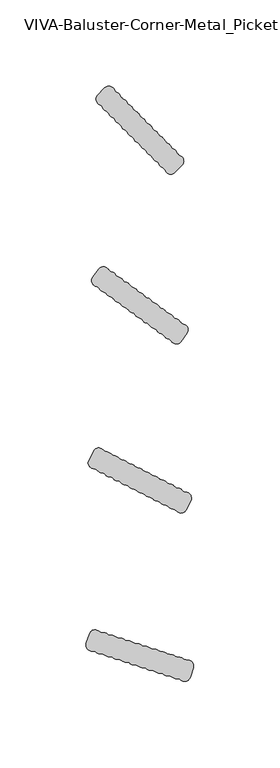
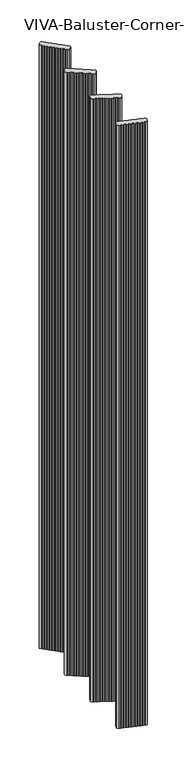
"""IFC4 building model written with IfcOpenShell, lengths in millimetres: railing geometry, VIVA-Baluster-Corner-Metal_Picket : OR4."""

from ifc_helpers import new_model, si_unit, point, frame, frame_2d, origin, place, context, project, spatial, polyline, circle_curve, trimmed, segment, composite_curve, outline, extrude, source, transform, mapped, element, save


def viva_baluster_corner_metal_picket_or4_ef358f53(model_context):
    return source(origin(), model_context, "Body", "SweptSolid", [
        extrude(outline(composite_curve([segment(trimmed(circle_curve(frame_2d((50.9185441, 59.6233121)), 3.4374084), [point((54.1877137, 58.5610945))], [point((48.7096318, 56.9895916))], False, "CARTESIAN"), True, "CONTINUOUS"), segment(trimmed(circle_curve(frame_2d((46.5007196, 54.3558711)), 3.4374084), [point((48.7096318, 56.9895916))], [point((46.2617341, 57.7849618))], True, "CARTESIAN"), True, "CONTINUOUS"), segment(trimmed(circle_curve(frame_2d((46.0227487, 61.2140524)), 3.4374084), [point((46.2617341, 57.7849618))], [point((43.8138364, 58.580332))], False, "CARTESIAN"), True, "CONTINUOUS"), segment(trimmed(circle_curve(frame_2d((41.6049242, 55.9466115)), 3.4374084), [point((43.8138364, 58.580332))], [point((41.3659387, 59.3757022))], True, "CARTESIAN"), True, "CONTINUOUS"), segment(trimmed(circle_curve(frame_2d((41.1269533, 62.8047928)), 3.4374084), [point((41.3659387, 59.3757022))], [point((38.918041, 60.1710723))], False, "CARTESIAN"), True, "CONTINUOUS"), segment(trimmed(circle_curve(frame_2d((36.7091288, 57.5373519)), 3.4374084), [point((38.918041, 60.1710723))], [point((36.4701433, 60.9664425))], True, "CARTESIAN"), True, "CONTINUOUS"), segment(trimmed(circle_curve(frame_2d((36.2311579, 64.3955332)), 3.4374084), [point((36.4701433, 60.9664425))], [point((34.0222456, 61.7618127))], False, "CARTESIAN"), True, "CONTINUOUS"), segment(trimmed(circle_curve(frame_2d((31.8133334, 59.1280922)), 3.4374084), [point((34.0222456, 61.7618127))], [point((31.5743479, 62.5571829))], True, "CARTESIAN"), True, "CONTINUOUS"), segment(trimmed(circle_curve(frame_2d((31.3353625, 65.9862735)), 3.4374084), [point((31.5743479, 62.5571829))], [point((29.1264502, 63.352553))], False, "CARTESIAN"), True, "CONTINUOUS"), segment(trimmed(circle_curve(frame_2d((26.917538, 60.7188326)), 3.4374084), [point((29.1264502, 63.352553))], [point((26.6785525, 64.1479232))], True, "CARTESIAN"), True, "CONTINUOUS"), segment(trimmed(circle_curve(frame_2d((26.4395671, 67.5770139)), 3.4374084), [point((26.6785525, 64.1479232))], [point((24.2306548, 64.9432934))], False, "CARTESIAN"), True, "CONTINUOUS"), segment(trimmed(circle_curve(frame_2d((22.0217426, 62.3095729)), 3.4374084), [point((24.2306548, 64.9432934))], [point((21.7827571, 65.7386636))], True, "CARTESIAN"), True, "CONTINUOUS"), segment(trimmed(circle_curve(frame_2d((21.5437717, 69.1677542)), 3.4374084), [point((21.7827571, 65.7386636))], [point((19.3348594, 66.5340337))], False, "CARTESIAN"), True, "CONTINUOUS"), segment(trimmed(circle_curve(frame_2d((17.1259472, 63.9003133)), 3.4374084), [point((19.3348594, 66.5340337))], [point((16.8869617, 67.3294039))], True, "CARTESIAN"), True, "CONTINUOUS"), segment(trimmed(circle_curve(frame_2d((16.6479763, 70.7584946)), 3.4374084), [point((16.8869617, 67.3294039))], [point((14.439064, 68.1247741))], False, "CARTESIAN"), True, "CONTINUOUS"), segment(trimmed(circle_curve(frame_2d((12.2301518, 65.4910536)), 3.4374084), [point((14.439064, 68.1247741))], [point((11.9911663, 68.9201443))], True, "CARTESIAN"), True, "CONTINUOUS"), segment(trimmed(circle_curve(frame_2d((11.7521809, 72.3492349)), 3.4374084), [point((11.9911663, 68.9201443))], [point((9.5432686, 69.7155145))], False, "CARTESIAN"), True, "CONTINUOUS"), segment(trimmed(circle_curve(frame_2d((7.3343564, 67.081794)), 3.4374084), [point((9.5432686, 69.7155145))], [point((7.0953709, 70.5108846))], True, "CARTESIAN"), True, "CONTINUOUS"), segment(trimmed(circle_curve(frame_2d((6.8563855, 73.9399753)), 3.4374084), [point((7.0953709, 70.5108846))], [point((4.6474732, 71.3062548))], False, "CARTESIAN"), True, "CONTINUOUS"), segment(trimmed(circle_curve(frame_2d((2.438561, 68.6725343)), 3.4374084), [point((4.6474732, 71.3062548))], [point((2.1995755, 72.101625))], True, "CARTESIAN"), True, "CONTINUOUS"), segment(trimmed(circle_curve(frame_2d((1.9605901, 75.5307156)), 3.4374084), [point((2.1995755, 72.101625))], [point((-0.2483222, 72.8969952))], False, "CARTESIAN"), True, "CONTINUOUS"), segment(trimmed(circle_curve(frame_2d((-2.4572344, 70.2632747)), 3.4374084), [point((-0.2483222, 72.8969952))], [point((-2.6962199, 73.6923653))], True, "CARTESIAN"), True, "CONTINUOUS"), segment(trimmed(circle_curve(frame_2d((-2.9352053, 77.121456)), 3.4374084), [point((-2.6962199, 73.6923653))], [point((-6.204375, 78.1836736))], False, "CARTESIAN"), True, "CONTINUOUS"), segment(polyline([(-6.204375, 78.1836736), (-4.4042945, 83.723752)]), True, "CONTINUOUS"), segment(trimmed(circle_curve(frame_2d((-1.1351248, 82.6615344)), 3.4374084), [point((-4.4042945, 83.723752))], [point((1.0737875, 85.2952548))], False, "CARTESIAN"), True, "CONTINUOUS"), segment(trimmed(circle_curve(frame_2d((3.2826997, 87.9289753)), 3.4374084), [point((1.0737875, 85.2952548))], [point((3.5216852, 84.4998847))], True, "CARTESIAN"), True, "CONTINUOUS"), segment(trimmed(circle_curve(frame_2d((3.7606706, 81.070794)), 3.4374084), [point((3.5216852, 84.4998847))], [point((5.9695829, 83.7045145))], False, "CARTESIAN"), True, "CONTINUOUS"), segment(trimmed(circle_curve(frame_2d((8.1784951, 86.338235)), 3.4374084), [point((5.9695829, 83.7045145))], [point((8.4174806, 82.9091443))], True, "CARTESIAN"), True, "CONTINUOUS"), segment(trimmed(circle_curve(frame_2d((8.656466, 79.4800537)), 3.4374084), [point((8.4174806, 82.9091443))], [point((10.8653783, 82.1137741))], False, "CARTESIAN"), True, "CONTINUOUS"), segment(trimmed(circle_curve(frame_2d((13.0742905, 84.7474946)), 3.4374084), [point((10.8653783, 82.1137741))], [point((13.313276, 81.318404))], True, "CARTESIAN"), True, "CONTINUOUS"), segment(trimmed(circle_curve(frame_2d((13.5522614, 77.8893133)), 3.4374084), [point((13.313276, 81.318404))], [point((15.7611737, 80.5230338))], False, "CARTESIAN"), True, "CONTINUOUS"), segment(trimmed(circle_curve(frame_2d((17.9700859, 83.1567542)), 3.4374084), [point((15.7611737, 80.5230338))], [point((18.2090714, 79.7276636))], True, "CARTESIAN"), True, "CONTINUOUS"), segment(trimmed(circle_curve(frame_2d((18.4480568, 76.2985729)), 3.4374084), [point((18.2090714, 79.7276636))], [point((20.6569691, 78.9322934))], False, "CARTESIAN"), True, "CONTINUOUS"), segment(trimmed(circle_curve(frame_2d((22.8658813, 81.5660139)), 3.4374084), [point((20.6569691, 78.9322934))], [point((23.1048668, 78.1369232))], True, "CARTESIAN"), True, "CONTINUOUS"), segment(trimmed(circle_curve(frame_2d((23.3438522, 74.7078326)), 3.4374084), [point((23.1048668, 78.1369232))], [point((25.5527645, 77.3415531))], False, "CARTESIAN"), True, "CONTINUOUS"), segment(trimmed(circle_curve(frame_2d((27.7616767, 79.9752735)), 3.4374084), [point((25.5527645, 77.3415531))], [point((28.0006622, 76.5461829))], True, "CARTESIAN"), True, "CONTINUOUS"), segment(trimmed(circle_curve(frame_2d((28.2396476, 73.1170922)), 3.4374084), [point((28.0006622, 76.5461829))], [point((30.4485599, 75.7508127))], False, "CARTESIAN"), True, "CONTINUOUS"), segment(trimmed(circle_curve(frame_2d((32.6574721, 78.3845332)), 3.4374084), [point((30.4485599, 75.7508127))], [point((32.8964576, 74.9554425))], True, "CARTESIAN"), True, "CONTINUOUS"), segment(trimmed(circle_curve(frame_2d((33.135443, 71.5263519)), 3.4374084), [point((32.8964576, 74.9554425))], [point((35.3443553, 74.1600724))], False, "CARTESIAN"), True, "CONTINUOUS"), segment(trimmed(circle_curve(frame_2d((37.5532675, 76.7937928)), 3.4374084), [point((35.3443553, 74.1600724))], [point((37.792253, 73.3647022))], True, "CARTESIAN"), True, "CONTINUOUS"), segment(trimmed(circle_curve(frame_2d((38.0312384, 69.9356115)), 3.4374084), [point((37.792253, 73.3647022))], [point((40.2401507, 72.569332))], False, "CARTESIAN"), True, "CONTINUOUS"), segment(trimmed(circle_curve(frame_2d((42.4490629, 75.2030525)), 3.4374084), [point((40.2401507, 72.569332))], [point((42.6880484, 71.7739618))], True, "CARTESIAN"), True, "CONTINUOUS"), segment(trimmed(circle_curve(frame_2d((42.9270338, 68.3448712)), 3.4374084), [point((42.6880484, 71.7739618))], [point((45.1359461, 70.9785917))], False, "CARTESIAN"), True, "CONTINUOUS"), segment(trimmed(circle_curve(frame_2d((47.3448583, 73.6123121)), 3.4374084), [point((45.1359461, 70.9785917))], [point((47.5838438, 70.1832215))], True, "CARTESIAN"), True, "CONTINUOUS"), segment(trimmed(circle_curve(frame_2d((47.8228292, 66.7541308)), 3.4374084), [point((47.5838438, 70.1832215))], [point((50.0317415, 69.3878513))], False, "CARTESIAN"), True, "CONTINUOUS"), segment(trimmed(circle_curve(frame_2d((52.2406537, 72.0215718)), 3.4374084), [point((50.0317415, 69.3878513))], [point((52.4796392, 68.5924811))], True, "CARTESIAN"), True, "CONTINUOUS"), segment(trimmed(circle_curve(frame_2d((52.7186246, 65.1633905)), 3.4374084), [point((52.4796392, 68.5924811))], [point((55.9877943, 64.1011728))], False, "CARTESIAN"), True, "CONTINUOUS"), segment(polyline([(55.9877943, 64.1011728), (54.1877137, 58.5610945)]), True, "CONTINUOUS")], self_intersect=False)), frame((0.0, 0.0, -245.8945017), z_axis=(0.0, 0.0, 1.0), x_axis=(1.0, 0.0, 0.0)), (0.0, 0.0, 1.0), 1465.0945017),
        extrude(outline(composite_curve([segment(trimmed(circle_curve(frame_2d((48.7961246, 157.2936376)), 3.4374084), [point((51.8588779, 155.7330868))], [point((46.2024031, 155.0378925))], False, "CARTESIAN"), True, "CONTINUOUS"), segment(trimmed(circle_curve(frame_2d((43.6086816, 152.7821475)), 3.4374084), [point((46.2024031, 155.0378925))], [point((43.9090663, 156.206406))], True, "CARTESIAN"), True, "CONTINUOUS"), segment(trimmed(circle_curve(frame_2d((44.2094511, 159.6306644)), 3.4374084), [point((43.9090663, 156.206406))], [point((41.6157296, 157.3749194))], False, "CARTESIAN"), True, "CONTINUOUS"), segment(trimmed(circle_curve(frame_2d((39.0220081, 155.1191744)), 3.4374084), [point((41.6157296, 157.3749194))], [point((39.3223929, 158.5434328))], True, "CARTESIAN"), True, "CONTINUOUS"), segment(trimmed(circle_curve(frame_2d((39.6227777, 161.9676912)), 3.4374084), [point((39.3223929, 158.5434328))], [point((37.0290562, 159.7119462))], False, "CARTESIAN"), True, "CONTINUOUS"), segment(trimmed(circle_curve(frame_2d((34.4353347, 157.4562012)), 3.4374084), [point((37.0290562, 159.7119462))], [point((34.7357195, 160.8804596))], True, "CARTESIAN"), True, "CONTINUOUS"), segment(trimmed(circle_curve(frame_2d((35.0361043, 164.3047181)), 3.4374084), [point((34.7357195, 160.8804596))], [point((32.4423828, 162.0489731))], False, "CARTESIAN"), True, "CONTINUOUS"), segment(trimmed(circle_curve(frame_2d((29.8486613, 159.7932281)), 3.4374084), [point((32.4423828, 162.0489731))], [point((30.1490461, 163.2174865))], True, "CARTESIAN"), True, "CONTINUOUS"), segment(trimmed(circle_curve(frame_2d((30.4494309, 166.6417449)), 3.4374084), [point((30.1490461, 163.2174865))], [point((27.8557094, 164.3859999))], False, "CARTESIAN"), True, "CONTINUOUS"), segment(trimmed(circle_curve(frame_2d((25.2619879, 162.1302549)), 3.4374084), [point((27.8557094, 164.3859999))], [point((25.5623727, 165.5545133))], True, "CARTESIAN"), True, "CONTINUOUS"), segment(trimmed(circle_curve(frame_2d((25.8627575, 168.9787717)), 3.4374084), [point((25.5623727, 165.5545133))], [point((23.269036, 166.7230267))], False, "CARTESIAN"), True, "CONTINUOUS"), segment(trimmed(circle_curve(frame_2d((20.6753145, 164.4672817)), 3.4374084), [point((23.269036, 166.7230267))], [point((20.9756993, 167.8915401))], True, "CARTESIAN"), True, "CONTINUOUS"), segment(trimmed(circle_curve(frame_2d((21.276084, 171.3157986)), 3.4374084), [point((20.9756993, 167.8915401))], [point((18.6823625, 169.0600536))], False, "CARTESIAN"), True, "CONTINUOUS"), segment(trimmed(circle_curve(frame_2d((16.088641, 166.8043086)), 3.4374084), [point((18.6823625, 169.0600536))], [point((16.3890258, 170.228567))], True, "CARTESIAN"), True, "CONTINUOUS"), segment(trimmed(circle_curve(frame_2d((16.6894106, 173.6528254)), 3.4374084), [point((16.3890258, 170.228567))], [point((14.0956891, 171.3970804))], False, "CARTESIAN"), True, "CONTINUOUS"), segment(trimmed(circle_curve(frame_2d((11.5019676, 169.1413354)), 3.4374084), [point((14.0956891, 171.3970804))], [point((11.8023524, 172.5655938))], True, "CARTESIAN"), True, "CONTINUOUS"), segment(trimmed(circle_curve(frame_2d((12.1027372, 175.9898522)), 3.4374084), [point((11.8023524, 172.5655938))], [point((9.5090157, 173.7341072))], False, "CARTESIAN"), True, "CONTINUOUS"), segment(trimmed(circle_curve(frame_2d((6.9152942, 171.4783622)), 3.4374084), [point((9.5090157, 173.7341072))], [point((7.215679, 174.9026206))], True, "CARTESIAN"), True, "CONTINUOUS"), segment(trimmed(circle_curve(frame_2d((7.5160638, 178.3268791)), 3.4374084), [point((7.215679, 174.9026206))], [point((4.9223423, 176.0711341))], False, "CARTESIAN"), True, "CONTINUOUS"), segment(trimmed(circle_curve(frame_2d((2.3286208, 173.8153891)), 3.4374084), [point((4.9223423, 176.0711341))], [point((2.6290056, 177.2396475))], True, "CARTESIAN"), True, "CONTINUOUS"), segment(trimmed(circle_curve(frame_2d((2.9293904, 180.6639059)), 3.4374084), [point((2.6290056, 177.2396475))], [point((0.3356689, 178.4081609))], False, "CARTESIAN"), True, "CONTINUOUS"), segment(trimmed(circle_curve(frame_2d((-2.2580526, 176.1524159)), 3.4374084), [point((0.3356689, 178.4081609))], [point((-1.9576678, 179.5766743))], True, "CARTESIAN"), True, "CONTINUOUS"), segment(trimmed(circle_curve(frame_2d((-1.657283, 183.0009327)), 3.4374084), [point((-1.9576678, 179.5766743))], [point((-4.7200364, 184.5614835))], False, "CARTESIAN"), True, "CONTINUOUS"), segment(polyline([(-4.7200364, 184.5614835), (-2.0754586, 189.7517597)]), True, "CONTINUOUS"), segment(trimmed(circle_curve(frame_2d((0.9872948, 188.1912089)), 3.4374084), [point((-2.0754586, 189.7517597))], [point((3.5810163, 190.4469539))], False, "CARTESIAN"), True, "CONTINUOUS"), segment(trimmed(circle_curve(frame_2d((6.1747378, 192.7026989)), 3.4374084), [point((3.5810163, 190.4469539))], [point((5.874353, 189.2784405))], True, "CARTESIAN"), True, "CONTINUOUS"), segment(trimmed(circle_curve(frame_2d((5.5739682, 185.8541821)), 3.4374084), [point((5.874353, 189.2784405))], [point((8.1676897, 188.1099271))], False, "CARTESIAN"), True, "CONTINUOUS"), segment(trimmed(circle_curve(frame_2d((10.7614112, 190.3656721)), 3.4374084), [point((8.1676897, 188.1099271))], [point((10.4610264, 186.9414137))], True, "CARTESIAN"), True, "CONTINUOUS"), segment(trimmed(circle_curve(frame_2d((10.1606416, 183.5171552)), 3.4374084), [point((10.4610264, 186.9414137))], [point((12.7543631, 185.7729002))], False, "CARTESIAN"), True, "CONTINUOUS"), segment(trimmed(circle_curve(frame_2d((15.3480846, 188.0286452)), 3.4374084), [point((12.7543631, 185.7729002))], [point((15.0476998, 184.6043868))], True, "CARTESIAN"), True, "CONTINUOUS"), segment(trimmed(circle_curve(frame_2d((14.747315, 181.1801284)), 3.4374084), [point((15.0476998, 184.6043868))], [point((17.3410365, 183.4358734))], False, "CARTESIAN"), True, "CONTINUOUS"), segment(trimmed(circle_curve(frame_2d((19.934758, 185.6916184)), 3.4374084), [point((17.3410365, 183.4358734))], [point((19.6343732, 182.26736))], True, "CARTESIAN"), True, "CONTINUOUS"), segment(trimmed(circle_curve(frame_2d((19.3339884, 178.8431016)), 3.4374084), [point((19.6343732, 182.26736))], [point((21.9277099, 181.0988466))], False, "CARTESIAN"), True, "CONTINUOUS"), segment(trimmed(circle_curve(frame_2d((24.5214314, 183.3545916)), 3.4374084), [point((21.9277099, 181.0988466))], [point((24.2210466, 179.9303332))], True, "CARTESIAN"), True, "CONTINUOUS"), segment(trimmed(circle_curve(frame_2d((23.9206618, 176.5060747)), 3.4374084), [point((24.2210466, 179.9303332))], [point((26.5143833, 178.7618197))], False, "CARTESIAN"), True, "CONTINUOUS"), segment(trimmed(circle_curve(frame_2d((29.1081049, 181.0175647)), 3.4374084), [point((26.5143833, 178.7618197))], [point((28.8077201, 177.5933063))], True, "CARTESIAN"), True, "CONTINUOUS"), segment(trimmed(circle_curve(frame_2d((28.5073353, 174.1690479)), 3.4374084), [point((28.8077201, 177.5933063))], [point((31.1010568, 176.4247929))], False, "CARTESIAN"), True, "CONTINUOUS"), segment(trimmed(circle_curve(frame_2d((33.6947783, 178.6805379)), 3.4374084), [point((31.1010568, 176.4247929))], [point((33.3943935, 175.2562795))], True, "CARTESIAN"), True, "CONTINUOUS"), segment(trimmed(circle_curve(frame_2d((33.0940087, 171.8320211)), 3.4374084), [point((33.3943935, 175.2562795))], [point((35.6877302, 174.0877661))], False, "CARTESIAN"), True, "CONTINUOUS"), segment(trimmed(circle_curve(frame_2d((38.2814517, 176.3435111)), 3.4374084), [point((35.6877302, 174.0877661))], [point((37.9810669, 172.9192527))], True, "CARTESIAN"), True, "CONTINUOUS"), segment(trimmed(circle_curve(frame_2d((37.6806821, 169.4949942)), 3.4374084), [point((37.9810669, 172.9192527))], [point((40.2744036, 171.7507392))], False, "CARTESIAN"), True, "CONTINUOUS"), segment(trimmed(circle_curve(frame_2d((42.8681251, 174.0064842)), 3.4374084), [point((40.2744036, 171.7507392))], [point((42.5677403, 170.5822258))], True, "CARTESIAN"), True, "CONTINUOUS"), segment(trimmed(circle_curve(frame_2d((42.2673555, 167.1579674)), 3.4374084), [point((42.5677403, 170.5822258))], [point((44.861077, 169.4137124))], False, "CARTESIAN"), True, "CONTINUOUS"), segment(trimmed(circle_curve(frame_2d((47.4547985, 171.6694574)), 3.4374084), [point((44.861077, 169.4137124))], [point((47.1544137, 168.245199))], True, "CARTESIAN"), True, "CONTINUOUS"), segment(trimmed(circle_curve(frame_2d((46.8540289, 164.8209406)), 3.4374084), [point((47.1544137, 168.245199))], [point((49.4477504, 167.0766856))], False, "CARTESIAN"), True, "CONTINUOUS"), segment(trimmed(circle_curve(frame_2d((52.0414719, 169.3324306)), 3.4374084), [point((49.4477504, 167.0766856))], [point((51.7410872, 165.9081721))], True, "CARTESIAN"), True, "CONTINUOUS"), segment(trimmed(circle_curve(frame_2d((51.4407024, 162.4839137)), 3.4374084), [point((51.7410872, 165.9081721))], [point((54.5034557, 160.923363))], False, "CARTESIAN"), True, "CONTINUOUS"), segment(polyline([(54.5034557, 160.923363), (51.8588779, 155.7330868)]), True, "CONTINUOUS")], self_intersect=False)), frame((0.0, 0.0, -245.8945017), z_axis=(0.0, 0.0, 1.0), x_axis=(1.0, 0.0, 0.0)), (0.0, 0.0, 1.0), 1465.0945017),
        extrude(outline(composite_curve([segment(trimmed(circle_curve(frame_2d((46.085099, 255.3443634)), 3.4374084), [point((48.8660209, 253.3239054))], [point((43.1704343, 253.5221378))], False, "CARTESIAN"), True, "CONTINUOUS"), segment(trimmed(circle_curve(frame_2d((40.2557695, 251.6999122)), 3.4374084), [point((43.1704343, 253.5221378))], [point((41.0881281, 255.0350218))], True, "CARTESIAN"), True, "CONTINUOUS"), segment(trimmed(circle_curve(frame_2d((41.9204867, 258.3701313)), 3.4374084), [point((41.0881281, 255.0350218))], [point((39.005822, 256.5479057))], False, "CARTESIAN"), True, "CONTINUOUS"), segment(trimmed(circle_curve(frame_2d((36.0911572, 254.7256801)), 3.4374084), [point((39.005822, 256.5479057))], [point((36.9235158, 258.0607897))], True, "CARTESIAN"), True, "CONTINUOUS"), segment(trimmed(circle_curve(frame_2d((37.7558744, 261.3958993)), 3.4374084), [point((36.9235158, 258.0607897))], [point((34.8412096, 259.5736737))], False, "CARTESIAN"), True, "CONTINUOUS"), segment(trimmed(circle_curve(frame_2d((31.9265449, 257.7514481)), 3.4374084), [point((34.8412096, 259.5736737))], [point((32.7589035, 261.0865577))], True, "CARTESIAN"), True, "CONTINUOUS"), segment(trimmed(circle_curve(frame_2d((33.5912621, 264.4216673)), 3.4374084), [point((32.7589035, 261.0865577))], [point((30.6765973, 262.5994417))], False, "CARTESIAN"), True, "CONTINUOUS"), segment(trimmed(circle_curve(frame_2d((27.7619326, 260.7772161)), 3.4374084), [point((30.6765973, 262.5994417))], [point((28.5942912, 264.1123256))], True, "CARTESIAN"), True, "CONTINUOUS"), segment(trimmed(circle_curve(frame_2d((29.4266498, 267.4474352)), 3.4374084), [point((28.5942912, 264.1123256))], [point((26.511985, 265.6252096))], False, "CARTESIAN"), True, "CONTINUOUS"), segment(trimmed(circle_curve(frame_2d((23.5973203, 263.802984)), 3.4374084), [point((26.511985, 265.6252096))], [point((24.4296789, 267.1380936))], True, "CARTESIAN"), True, "CONTINUOUS"), segment(trimmed(circle_curve(frame_2d((25.2620375, 270.4732032)), 3.4374084), [point((24.4296789, 267.1380936))], [point((22.3473727, 268.6509776))], False, "CARTESIAN"), True, "CONTINUOUS"), segment(trimmed(circle_curve(frame_2d((19.432708, 266.828752)), 3.4374084), [point((22.3473727, 268.6509776))], [point((20.2650665, 270.1638616))], True, "CARTESIAN"), True, "CONTINUOUS"), segment(trimmed(circle_curve(frame_2d((21.0974251, 273.4989711)), 3.4374084), [point((20.2650665, 270.1638616))], [point((18.1827604, 271.6767455))], False, "CARTESIAN"), True, "CONTINUOUS"), segment(trimmed(circle_curve(frame_2d((15.2680956, 269.8545199)), 3.4374084), [point((18.1827604, 271.6767455))], [point((16.1004542, 273.1896295))], True, "CARTESIAN"), True, "CONTINUOUS"), segment(trimmed(circle_curve(frame_2d((16.9328128, 276.5247391)), 3.4374084), [point((16.1004542, 273.1896295))], [point((14.0181481, 274.7025135))], False, "CARTESIAN"), True, "CONTINUOUS"), segment(trimmed(circle_curve(frame_2d((11.1034833, 272.8802879)), 3.4374084), [point((14.0181481, 274.7025135))], [point((11.9358419, 276.2153975))], True, "CARTESIAN"), True, "CONTINUOUS"), segment(trimmed(circle_curve(frame_2d((12.7682005, 279.5505071)), 3.4374084), [point((11.9358419, 276.2153975))], [point((9.8535358, 277.7282815))], False, "CARTESIAN"), True, "CONTINUOUS"), segment(trimmed(circle_curve(frame_2d((6.938871, 275.9060559)), 3.4374084), [point((9.8535358, 277.7282815))], [point((7.7712296, 279.2411654))], True, "CARTESIAN"), True, "CONTINUOUS"), segment(trimmed(circle_curve(frame_2d((8.6035882, 282.576275)), 3.4374084), [point((7.7712296, 279.2411654))], [point((5.6889234, 280.7540494))], False, "CARTESIAN"), True, "CONTINUOUS"), segment(trimmed(circle_curve(frame_2d((2.7742587, 278.9318238)), 3.4374084), [point((5.6889234, 280.7540494))], [point((3.6066173, 282.2669334))], True, "CARTESIAN"), True, "CONTINUOUS"), segment(trimmed(circle_curve(frame_2d((4.4389759, 285.602043)), 3.4374084), [point((3.6066173, 282.2669334))], [point((1.5243111, 283.7798174))], False, "CARTESIAN"), True, "CONTINUOUS"), segment(trimmed(circle_curve(frame_2d((-1.3903536, 281.9575918)), 3.4374084), [point((1.5243111, 283.7798174))], [point((-0.557995, 285.2927014))], True, "CARTESIAN"), True, "CONTINUOUS"), segment(trimmed(circle_curve(frame_2d((0.2743636, 288.6278109)), 3.4374084), [point((-0.557995, 285.2927014))], [point((-2.5065583, 290.6482689))], False, "CARTESIAN"), True, "CONTINUOUS"), segment(polyline([(-2.5065583, 290.6482689), (0.9173985, 295.3609411)]), True, "CONTINUOUS"), segment(trimmed(circle_curve(frame_2d((3.6983203, 293.3404831)), 3.4374084), [point((0.9173985, 295.3609411))], [point((6.612985, 295.1627087))], False, "CARTESIAN"), True, "CONTINUOUS"), segment(trimmed(circle_curve(frame_2d((9.5276498, 296.9849343)), 3.4374084), [point((6.612985, 295.1627087))], [point((8.6952912, 293.6498247))], True, "CARTESIAN"), True, "CONTINUOUS"), segment(trimmed(circle_curve(frame_2d((7.8629326, 290.3147151)), 3.4374084), [point((8.6952912, 293.6498247))], [point((10.7775974, 292.1369407))], False, "CARTESIAN"), True, "CONTINUOUS"), segment(trimmed(circle_curve(frame_2d((13.6922621, 293.9591663)), 3.4374084), [point((10.7775974, 292.1369407))], [point((12.8599035, 290.6240567))], True, "CARTESIAN"), True, "CONTINUOUS"), segment(trimmed(circle_curve(frame_2d((12.0275449, 287.2889472)), 3.4374084), [point((12.8599035, 290.6240567))], [point((14.9422097, 289.1111728))], False, "CARTESIAN"), True, "CONTINUOUS"), segment(trimmed(circle_curve(frame_2d((17.8568744, 290.9333984)), 3.4374084), [point((14.9422097, 289.1111728))], [point((17.0245158, 287.5982888))], True, "CARTESIAN"), True, "CONTINUOUS"), segment(trimmed(circle_curve(frame_2d((16.1921572, 284.2631792)), 3.4374084), [point((17.0245158, 287.5982888))], [point((19.106822, 286.0854048))], False, "CARTESIAN"), True, "CONTINUOUS"), segment(trimmed(circle_curve(frame_2d((22.0214867, 287.9076304)), 3.4374084), [point((19.106822, 286.0854048))], [point((21.1891282, 284.5725208))], True, "CARTESIAN"), True, "CONTINUOUS"), segment(trimmed(circle_curve(frame_2d((20.3567696, 281.2374112)), 3.4374084), [point((21.1891282, 284.5725208))], [point((23.2714343, 283.0596368))], False, "CARTESIAN"), True, "CONTINUOUS"), segment(trimmed(circle_curve(frame_2d((26.1860991, 284.8818624)), 3.4374084), [point((23.2714343, 283.0596368))], [point((25.3537405, 281.5467529))], True, "CARTESIAN"), True, "CONTINUOUS"), segment(trimmed(circle_curve(frame_2d((24.5213819, 278.2116433)), 3.4374084), [point((25.3537405, 281.5467529))], [point((27.4360466, 280.0338689))], False, "CARTESIAN"), True, "CONTINUOUS"), segment(trimmed(circle_curve(frame_2d((30.3507114, 281.8560945)), 3.4374084), [point((27.4360466, 280.0338689))], [point((29.5183528, 278.5209849))], True, "CARTESIAN"), True, "CONTINUOUS"), segment(trimmed(circle_curve(frame_2d((28.6859942, 275.1858753)), 3.4374084), [point((29.5183528, 278.5209849))], [point((31.6006589, 277.0081009))], False, "CARTESIAN"), True, "CONTINUOUS"), segment(trimmed(circle_curve(frame_2d((34.5153237, 278.8303265)), 3.4374084), [point((31.6006589, 277.0081009))], [point((33.6829651, 275.4952169))], True, "CARTESIAN"), True, "CONTINUOUS"), segment(trimmed(circle_curve(frame_2d((32.8506065, 272.1601074)), 3.4374084), [point((33.6829651, 275.4952169))], [point((35.7652713, 273.982333))], False, "CARTESIAN"), True, "CONTINUOUS"), segment(trimmed(circle_curve(frame_2d((38.679936, 275.8045586)), 3.4374084), [point((35.7652713, 273.982333))], [point((37.8475774, 272.469449))], True, "CARTESIAN"), True, "CONTINUOUS"), segment(trimmed(circle_curve(frame_2d((37.0152188, 269.1343394)), 3.4374084), [point((37.8475774, 272.469449))], [point((39.9298836, 270.956565))], False, "CARTESIAN"), True, "CONTINUOUS"), segment(trimmed(circle_curve(frame_2d((42.8445483, 272.7787906)), 3.4374084), [point((39.9298836, 270.956565))], [point((42.0121897, 269.443681))], True, "CARTESIAN"), True, "CONTINUOUS"), segment(trimmed(circle_curve(frame_2d((41.1798311, 266.1085715)), 3.4374084), [point((42.0121897, 269.443681))], [point((44.0944959, 267.9307971))], False, "CARTESIAN"), True, "CONTINUOUS"), segment(trimmed(circle_curve(frame_2d((47.0091606, 269.7530227)), 3.4374084), [point((44.0944959, 267.9307971))], [point((46.176802, 266.4179131))], True, "CARTESIAN"), True, "CONTINUOUS"), segment(trimmed(circle_curve(frame_2d((45.3444434, 263.0828035)), 3.4374084), [point((46.176802, 266.4179131))], [point((48.2591082, 264.9050291))], False, "CARTESIAN"), True, "CONTINUOUS"), segment(trimmed(circle_curve(frame_2d((51.1737729, 266.7272547)), 3.4374084), [point((48.2591082, 264.9050291))], [point((50.3414144, 263.3921451))], True, "CARTESIAN"), True, "CONTINUOUS"), segment(trimmed(circle_curve(frame_2d((49.5090558, 260.0570355)), 3.4374084), [point((50.3414144, 263.3921451))], [point((52.2899776, 258.0365775))], False, "CARTESIAN"), True, "CONTINUOUS"), segment(polyline([(52.2899776, 258.0365775), (48.8660209, 253.3239054)]), True, "CONTINUOUS")], self_intersect=False)), frame((0.0, 0.0, -245.8945017), z_axis=(0.0, 0.0, 1.0), x_axis=(1.0, 0.0, 0.0)), (0.0, 0.0, 1.0), 1465.0945017),
        extrude(outline(composite_curve([segment(trimmed(circle_curve(frame_2d((42.8522219, 353.8628845)), 3.4374084), [point((45.2828367, 351.4322697))], [point((39.6883826, 352.5190475))], False, "CARTESIAN"), True, "CONTINUOUS"), segment(trimmed(circle_curve(frame_2d((36.5245434, 351.1752106)), 3.4374084), [point((39.6883826, 352.5190475))], [point((37.8683803, 354.3390499))], True, "CARTESIAN"), True, "CONTINUOUS"), segment(trimmed(circle_curve(frame_2d((39.2122173, 357.5028891)), 3.4374084), [point((37.8683803, 354.3390499))], [point((36.048378, 356.1590522))], False, "CARTESIAN"), True, "CONTINUOUS"), segment(trimmed(circle_curve(frame_2d((32.8845387, 354.8152152)), 3.4374084), [point((36.048378, 356.1590522))], [point((34.2283757, 357.9790545))], True, "CARTESIAN"), True, "CONTINUOUS"), segment(trimmed(circle_curve(frame_2d((35.5722126, 361.1428938)), 3.4374084), [point((34.2283757, 357.9790545))], [point((32.4083734, 359.7990568))], False, "CARTESIAN"), True, "CONTINUOUS"), segment(trimmed(circle_curve(frame_2d((29.2445341, 358.4552198)), 3.4374084), [point((32.4083734, 359.7990568))], [point((30.5883711, 361.6190591))], True, "CARTESIAN"), True, "CONTINUOUS"), segment(trimmed(circle_curve(frame_2d((31.932208, 364.7828984)), 3.4374084), [point((30.5883711, 361.6190591))], [point((28.7683687, 363.4390614))], False, "CARTESIAN"), True, "CONTINUOUS"), segment(trimmed(circle_curve(frame_2d((25.6045295, 362.0952245)), 3.4374084), [point((28.7683687, 363.4390614))], [point((26.9483664, 365.2590638))], True, "CARTESIAN"), True, "CONTINUOUS"), segment(trimmed(circle_curve(frame_2d((28.2922034, 368.422903)), 3.4374084), [point((26.9483664, 365.2590638))], [point((25.1283641, 367.0790661))], False, "CARTESIAN"), True, "CONTINUOUS"), segment(trimmed(circle_curve(frame_2d((21.9645248, 365.7352291)), 3.4374084), [point((25.1283641, 367.0790661))], [point((23.3083618, 368.8990684))], True, "CARTESIAN"), True, "CONTINUOUS"), segment(trimmed(circle_curve(frame_2d((24.6521987, 372.0629077)), 3.4374084), [point((23.3083618, 368.8990684))], [point((21.4883595, 370.7190707))], False, "CARTESIAN"), True, "CONTINUOUS"), segment(trimmed(circle_curve(frame_2d((18.3245202, 369.3752337)), 3.4374084), [point((21.4883595, 370.7190707))], [point((19.6683571, 372.539073))], True, "CARTESIAN"), True, "CONTINUOUS"), segment(trimmed(circle_curve(frame_2d((21.0121941, 375.7029123)), 3.4374084), [point((19.6683571, 372.539073))], [point((17.8483548, 374.3590753))], False, "CARTESIAN"), True, "CONTINUOUS"), segment(trimmed(circle_curve(frame_2d((14.6845156, 373.0152384)), 3.4374084), [point((17.8483548, 374.3590753))], [point((16.0283525, 376.1790777))], True, "CARTESIAN"), True, "CONTINUOUS"), segment(trimmed(circle_curve(frame_2d((17.3721895, 379.3429169)), 3.4374084), [point((16.0283525, 376.1790777))], [point((14.2083502, 377.99908))], False, "CARTESIAN"), True, "CONTINUOUS"), segment(trimmed(circle_curve(frame_2d((11.0445109, 376.655243)), 3.4374084), [point((14.2083502, 377.99908))], [point((12.3883479, 379.8190823))], True, "CARTESIAN"), True, "CONTINUOUS"), segment(trimmed(circle_curve(frame_2d((13.7321848, 382.9829216)), 3.4374084), [point((12.3883479, 379.8190823))], [point((10.5683456, 381.6390846))], False, "CARTESIAN"), True, "CONTINUOUS"), segment(trimmed(circle_curve(frame_2d((7.4045063, 380.2952477)), 3.4374084), [point((10.5683456, 381.6390846))], [point((8.7483432, 383.4590869))], True, "CARTESIAN"), True, "CONTINUOUS"), segment(trimmed(circle_curve(frame_2d((10.0921802, 386.6229262)), 3.4374084), [point((8.7483432, 383.4590869))], [point((6.9283409, 385.2790892))], False, "CARTESIAN"), True, "CONTINUOUS"), segment(trimmed(circle_curve(frame_2d((3.7645016, 383.9352523)), 3.4374084), [point((6.9283409, 385.2790892))], [point((5.1083386, 387.0990916))], True, "CARTESIAN"), True, "CONTINUOUS"), segment(trimmed(circle_curve(frame_2d((6.4521756, 390.2629308)), 3.4374084), [point((5.1083386, 387.0990916))], [point((3.2883363, 388.9190939))], False, "CARTESIAN"), True, "CONTINUOUS"), segment(trimmed(circle_curve(frame_2d((0.124497, 387.5752569)), 3.4374084), [point((3.2883363, 388.9190939))], [point((1.468334, 390.7390962))], True, "CARTESIAN"), True, "CONTINUOUS"), segment(trimmed(circle_curve(frame_2d((2.8121709, 393.9029355)), 3.4374084), [point((1.468334, 390.7390962))], [point((0.3815561, 396.3335503))], False, "CARTESIAN"), True, "CONTINUOUS"), segment(polyline([(0.3815561, 396.3335503), (4.5005826, 400.4525768)]), True, "CONTINUOUS"), segment(trimmed(circle_curve(frame_2d((6.9311974, 398.021962)), 3.4374084), [point((4.5005826, 400.4525768))], [point((10.0950367, 399.3657989))], False, "CARTESIAN"), True, "CONTINUOUS"), segment(trimmed(circle_curve(frame_2d((13.258876, 400.7096359)), 3.4374084), [point((10.0950367, 399.3657989))], [point((11.915039, 397.5457966))], True, "CARTESIAN"), True, "CONTINUOUS"), segment(trimmed(circle_curve(frame_2d((10.5712021, 394.3819573)), 3.4374084), [point((11.915039, 397.5457966))], [point((13.7350413, 395.7257943))], False, "CARTESIAN"), True, "CONTINUOUS"), segment(trimmed(circle_curve(frame_2d((16.8988806, 397.0696313)), 3.4374084), [point((13.7350413, 395.7257943))], [point((15.5550437, 393.905792))], True, "CARTESIAN"), True, "CONTINUOUS"), segment(trimmed(circle_curve(frame_2d((14.2112067, 390.7419527)), 3.4374084), [point((15.5550437, 393.905792))], [point((17.375046, 392.0857897))], False, "CARTESIAN"), True, "CONTINUOUS"), segment(trimmed(circle_curve(frame_2d((20.5388853, 393.4296266)), 3.4374084), [point((17.375046, 392.0857897))], [point((19.1950483, 390.2657873))], True, "CARTESIAN"), True, "CONTINUOUS"), segment(trimmed(circle_curve(frame_2d((17.8512113, 387.1019481)), 3.4374084), [point((19.1950483, 390.2657873))], [point((21.0150506, 388.445785))], False, "CARTESIAN"), True, "CONTINUOUS"), segment(trimmed(circle_curve(frame_2d((24.1788899, 389.789622)), 3.4374084), [point((21.0150506, 388.445785))], [point((22.8350529, 386.6257827))], True, "CARTESIAN"), True, "CONTINUOUS"), segment(trimmed(circle_curve(frame_2d((21.491216, 383.4619434)), 3.4374084), [point((22.8350529, 386.6257827))], [point((24.6550552, 384.8057804))], False, "CARTESIAN"), True, "CONTINUOUS"), segment(trimmed(circle_curve(frame_2d((27.8188945, 386.1496174)), 3.4374084), [point((24.6550552, 384.8057804))], [point((26.4750576, 382.9857781))], True, "CARTESIAN"), True, "CONTINUOUS"), segment(trimmed(circle_curve(frame_2d((25.1312206, 379.8219388)), 3.4374084), [point((26.4750576, 382.9857781))], [point((28.2950599, 381.1657758))], False, "CARTESIAN"), True, "CONTINUOUS"), segment(trimmed(circle_curve(frame_2d((31.4588992, 382.5096127)), 3.4374084), [point((28.2950599, 381.1657758))], [point((30.1150622, 379.3457734))], True, "CARTESIAN"), True, "CONTINUOUS"), segment(trimmed(circle_curve(frame_2d((28.7712252, 376.1819342)), 3.4374084), [point((30.1150622, 379.3457734))], [point((31.9350645, 377.5257711))], False, "CARTESIAN"), True, "CONTINUOUS"), segment(trimmed(circle_curve(frame_2d((35.0989038, 378.8696081)), 3.4374084), [point((31.9350645, 377.5257711))], [point((33.7550668, 375.7057688))], True, "CARTESIAN"), True, "CONTINUOUS"), segment(trimmed(circle_curve(frame_2d((32.4112299, 372.5419295)), 3.4374084), [point((33.7550668, 375.7057688))], [point((35.5750691, 373.8857665))], False, "CARTESIAN"), True, "CONTINUOUS"), segment(trimmed(circle_curve(frame_2d((38.7389084, 375.2296034)), 3.4374084), [point((35.5750691, 373.8857665))], [point((37.3950715, 372.0657642))], True, "CARTESIAN"), True, "CONTINUOUS"), segment(trimmed(circle_curve(frame_2d((36.0512345, 368.9019249)), 3.4374084), [point((37.3950715, 372.0657642))], [point((39.2150738, 370.2457619))], False, "CARTESIAN"), True, "CONTINUOUS"), segment(trimmed(circle_curve(frame_2d((42.3789131, 371.5895988)), 3.4374084), [point((39.2150738, 370.2457619))], [point((41.0350761, 368.4257595))], True, "CARTESIAN"), True, "CONTINUOUS"), segment(trimmed(circle_curve(frame_2d((39.6912391, 365.2619203)), 3.4374084), [point((41.0350761, 368.4257595))], [point((42.8550784, 366.6057572))], False, "CARTESIAN"), True, "CONTINUOUS"), segment(trimmed(circle_curve(frame_2d((46.0189177, 367.9495942)), 3.4374084), [point((42.8550784, 366.6057572))], [point((44.6750807, 364.7857549))], True, "CARTESIAN"), True, "CONTINUOUS"), segment(trimmed(circle_curve(frame_2d((43.3312438, 361.6219156)), 3.4374084), [point((44.6750807, 364.7857549))], [point((46.495083, 362.9657526))], False, "CARTESIAN"), True, "CONTINUOUS"), segment(trimmed(circle_curve(frame_2d((49.6589223, 364.3095895)), 3.4374084), [point((46.495083, 362.9657526))], [point((48.3150854, 361.1457503))], True, "CARTESIAN"), True, "CONTINUOUS"), segment(trimmed(circle_curve(frame_2d((46.9712484, 357.981911)), 3.4374084), [point((48.3150854, 361.1457503))], [point((49.4018632, 355.5512962))], False, "CARTESIAN"), True, "CONTINUOUS"), segment(polyline([(49.4018632, 355.5512962), (45.2828367, 351.4322697)]), True, "CONTINUOUS")], self_intersect=False)), frame((0.0, 0.0, -245.8945017), z_axis=(0.0, 0.0, 1.0), x_axis=(1.0, 0.0, 0.0)), (0.0, 0.0, 1.0), 1465.0945017),
    ])


if __name__ == "__main__":
    model = new_model("IFC4")
    model_context = context("Model", 3, world=origin())
    ifc_project = project(units=[si_unit("LENGTHUNIT", "METRE", prefix="MILLI")], contexts=[model_context])
    site = spatial("IfcSite", under=ifc_project)
    building = spatial("IfcBuilding", under=site)
    placement = place(None, origin())
    viva_baluster_corner_metal_picket_or4_shape = viva_baluster_corner_metal_picket_or4_ef358f53(model_context)
    element("IfcRailing", 1, ObjectType="VIVA-Baluster-Corner-Metal_Picket : OR4", at=placement, inside=building, context=model_context, shape_type="MappedRepresentation", body=[
        mapped(viva_baluster_corner_metal_picket_or4_shape, transform((0.0, 0.0, 0.0), x_axis=(1.0, 0.0, 0.0), y_axis=(0.0, 1.0, 0.0), z_axis=(0.0, 0.0, 1.0))),
    ])
    save(model, "model.ifc")
